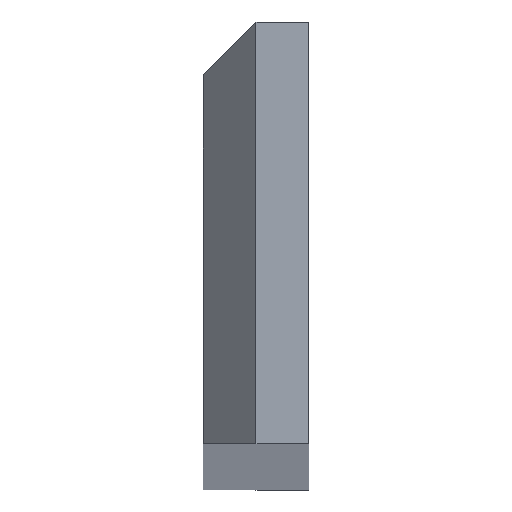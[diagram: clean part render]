
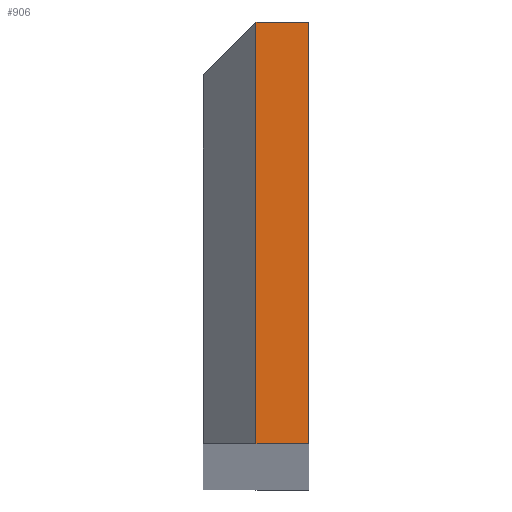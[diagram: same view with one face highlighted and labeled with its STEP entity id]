
A CAD part, top view. The second image highlights one B-rep face of the part: STEP entity #906.
In plain terms, the highlighted planar face has unit normal (0, 0, 1).
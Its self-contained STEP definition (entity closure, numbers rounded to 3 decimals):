
#55 = EDGE_LOOP ( 'NONE', ( #1729, #857, #863, #855 ) ) ;
#275 = FACE_OUTER_BOUND ( 'NONE', #55, .T. ) ;
#426 = LINE ( 'NONE', #986, #460 ) ;
#436 = VECTOR ( 'NONE', #1021, 1000. ) ;
#450 = LINE ( 'NONE', #1033, #436 ) ;
#460 = VECTOR ( 'NONE', #967, 1000. ) ;
#466 = LINE ( 'NONE', #1107, #481 ) ;
#470 = VECTOR ( 'NONE', #1096, 1000. ) ;
#473 = LINE ( 'NONE', #1100, #470 ) ;
#481 = VECTOR ( 'NONE', #1115, 1000. ) ;
#622 = VERTEX_POINT ( 'NONE', #1206 ) ;
#629 = VERTEX_POINT ( 'NONE', #1210 ) ;
#631 = VERTEX_POINT ( 'NONE', #1237 ) ;
#725 = VERTEX_POINT ( 'NONE', #1423 ) ;
#855 = ORIENTED_EDGE ( 'NONE', *, *, #2080, .T. ) ;
#857 = ORIENTED_EDGE ( 'NONE', *, *, #2095, .T. ) ;
#863 = ORIENTED_EDGE ( 'NONE', *, *, #2125, .T. ) ;
#906 = ADVANCED_FACE ( 'NONE', ( #275 ), #1476, .T. ) ;
#967 = DIRECTION ( 'NONE',  ( 0., 1., 0. ) ) ;
#986 = CARTESIAN_POINT ( 'NONE',  ( 1., 4., 503.3 ) ) ;
#1021 = DIRECTION ( 'NONE',  ( 0., -1., 0. ) ) ;
#1033 = CARTESIAN_POINT ( 'NONE',  ( 0., -4., 503.3 ) ) ;
#1096 = DIRECTION ( 'NONE',  ( 1., 0., 0. ) ) ;
#1100 = CARTESIAN_POINT ( 'NONE',  ( -1., -4., 503.3 ) ) ;
#1107 = CARTESIAN_POINT ( 'NONE',  ( -1., 4., 503.3 ) ) ;
#1115 = DIRECTION ( 'NONE',  ( -1., 0., 0. ) ) ;
#1206 = CARTESIAN_POINT ( 'NONE',  ( 1., -4., 503.3 ) ) ;
#1210 = CARTESIAN_POINT ( 'NONE',  ( 0., 4., 503.3 ) ) ;
#1237 = CARTESIAN_POINT ( 'NONE',  ( 0., -4., 503.3 ) ) ;
#1423 = CARTESIAN_POINT ( 'NONE',  ( 1., 4., 503.3 ) ) ;
#1476 = PLANE ( 'NONE',  #1926 ) ;
#1484 = DIRECTION ( 'NONE',  ( 1., 0., 0. ) ) ;
#1504 = DIRECTION ( 'NONE',  ( 0., 0., 1. ) ) ;
#1518 = CARTESIAN_POINT ( 'NONE',  ( 0., 0., 503.3 ) ) ;
#1729 = ORIENTED_EDGE ( 'NONE', *, *, #2120, .T. ) ;
#1926 = AXIS2_PLACEMENT_3D ( 'NONE', #1518, #1504, #1484 ) ;
#2080 = EDGE_CURVE ( 'NONE', #622, #725, #426, .T. ) ;
#2095 = EDGE_CURVE ( 'NONE', #629, #631, #450, .T. ) ;
#2120 = EDGE_CURVE ( 'NONE', #725, #629, #466, .T. ) ;
#2125 = EDGE_CURVE ( 'NONE', #631, #622, #473, .T. ) ;
